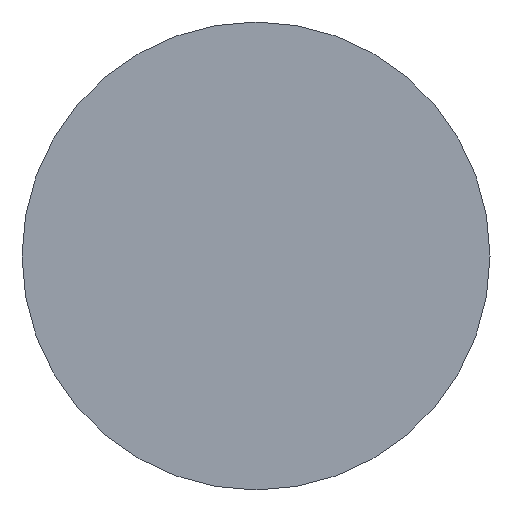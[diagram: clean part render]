
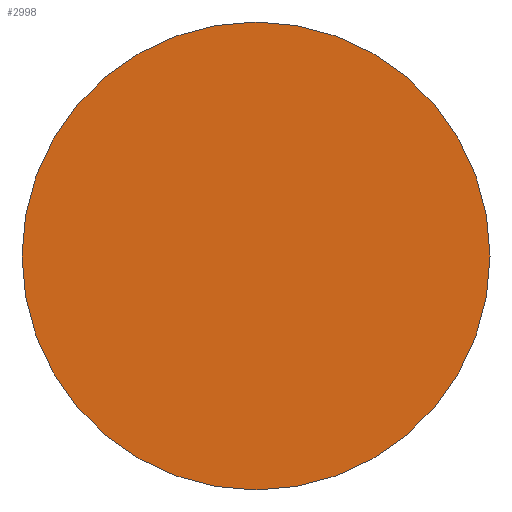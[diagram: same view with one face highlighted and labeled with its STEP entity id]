
A CAD part, front view. The second image highlights one B-rep face of the part: STEP entity #2998.
In plain terms, the highlighted planar face has unit normal (0, -1, 0).
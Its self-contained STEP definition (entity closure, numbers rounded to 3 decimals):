
#74 = DIRECTION ( 'NONE',  ( 0., -1., 0. ) ) ;
#236 = CARTESIAN_POINT ( 'NONE',  ( -41., -30., 0. ) ) ;
#411 = CARTESIAN_POINT ( 'NONE',  ( 41., -30., 0. ) ) ;
#1032 = DIRECTION ( 'NONE',  ( 1., 0., 0. ) ) ;
#1149 = ORIENTED_EDGE ( 'NONE', *, *, #2009, .T. ) ;
#1177 = CIRCLE ( 'NONE', #1726, 41. ) ;
#1257 = CARTESIAN_POINT ( 'NONE',  ( 0., -30., 0. ) ) ;
#1425 = AXIS2_PLACEMENT_3D ( 'NONE', #1997, #74, #1032 ) ;
#1726 = AXIS2_PLACEMENT_3D ( 'NONE', #2863, #1922, #2903 ) ;
#1922 = DIRECTION ( 'NONE',  ( 0., -1., 0. ) ) ;
#1997 = CARTESIAN_POINT ( 'NONE',  ( 41., -30., 0. ) ) ;
#2009 = EDGE_CURVE ( 'NONE', #4000, #3801, #1177, .T. ) ;
#2040 = FACE_OUTER_BOUND ( 'NONE', #4081, .T. ) ;
#2178 = CIRCLE ( 'NONE', #4113, 41. ) ;
#2863 = CARTESIAN_POINT ( 'NONE',  ( 0., -30., 0. ) ) ;
#2903 = DIRECTION ( 'NONE',  ( 1., 0., 0. ) ) ;
#2955 = DIRECTION ( 'NONE',  ( 1., 0., 0. ) ) ;
#2993 = PLANE ( 'NONE',  #1425 ) ;
#2998 = ADVANCED_FACE ( 'NONE', ( #2040 ), #2993, .T. ) ;
#3474 = EDGE_CURVE ( 'NONE', #3801, #4000, #2178, .T. ) ;
#3801 = VERTEX_POINT ( 'NONE', #411 ) ;
#3942 = DIRECTION ( 'NONE',  ( 0., -1., 0. ) ) ;
#4000 = VERTEX_POINT ( 'NONE', #236 ) ;
#4081 = EDGE_LOOP ( 'NONE', ( #4237, #1149 ) ) ;
#4113 = AXIS2_PLACEMENT_3D ( 'NONE', #1257, #3942, #2955 ) ;
#4237 = ORIENTED_EDGE ( 'NONE', *, *, #3474, .T. ) ;
